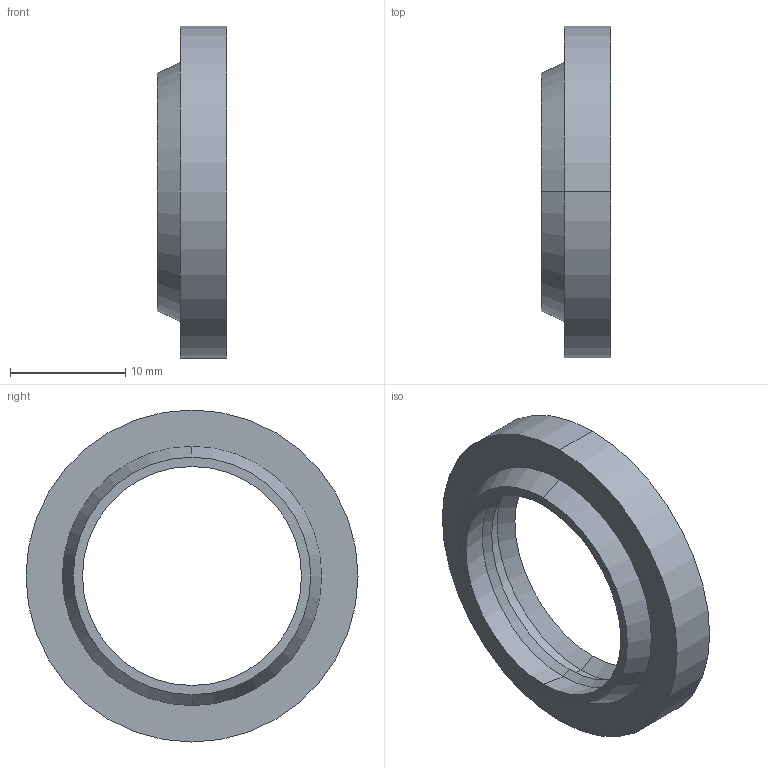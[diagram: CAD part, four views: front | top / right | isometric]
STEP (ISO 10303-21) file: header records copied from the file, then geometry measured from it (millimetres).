
FILE_DESCRIPTION (( 'STEP AP214' ), '1' );
FILE_NAME ('PAW01-19.STEP', '2011-03-11T11:56:22', ( '' ), ( '' ), 'SwSTEP 2.0', 'SolidWorks 2010', '' );
FILE_SCHEMA (( 'AUTOMOTIVE_DESIGN' ));
Length unit declared in the file: millimetre
Products named in the file (1): PAW01-19
Bounding box: 6 x 28.8 x 28.8 mm (x, y, z)
Volume: 1498.8 mm3; surface area: 1606.7 mm2
Topology: 1 solids, 1 shells, 17 faces, 34 edges, 20 vertices
Faces by surface type: cone 10, cylinder 4, plane 3
Entity records: 482 total; most frequent: DIRECTION 90, CARTESIAN_POINT 72, ORIENTED_EDGE 68, AXIS2_PLACEMENT_3D 38, EDGE_CURVE 34, CIRCLE 20, EDGE_LOOP 20, VERTEX_POINT 20
